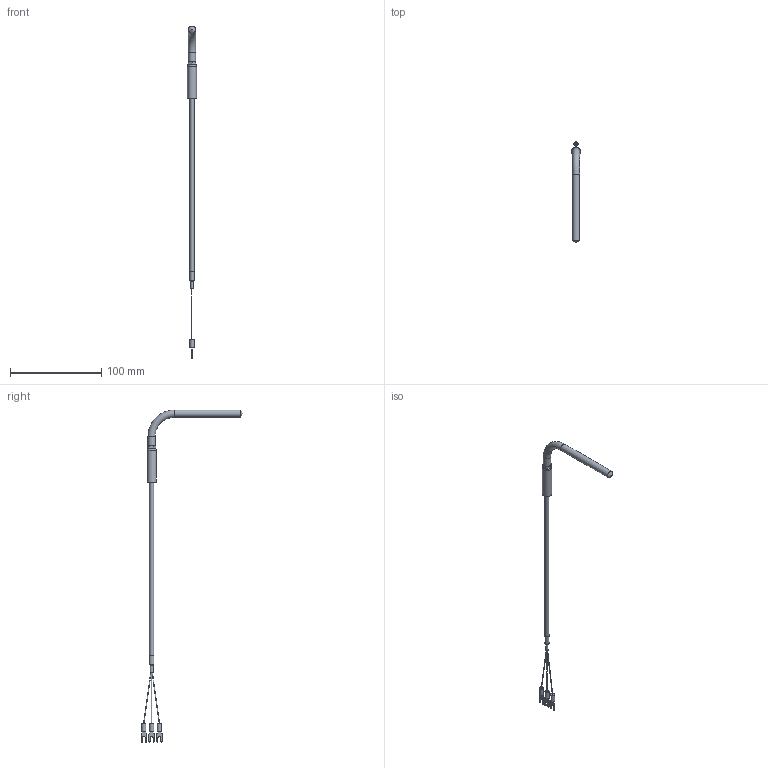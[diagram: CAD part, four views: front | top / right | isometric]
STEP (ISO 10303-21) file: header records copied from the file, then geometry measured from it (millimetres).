
FILE_DESCRIPTION (( 'STEP AP203' ), '1' );
FILE_NAME ('YIR111S-4(0).STEP', '2024-08-02T04:20:30', ( '' ), ( '' ), 'SwSTEP 2.0', 'SolidWorks 2021', '' );
FILE_SCHEMA (( 'CONFIG_CONTROL_DESIGN' ));
Length unit declared in the file: millimetre
Products named in the file (1): YIR111S-4(0)
Bounding box: 10 x 111.48 x 363.72 mm (x, y, z)
Volume: 13501.2 mm3; surface area: 8646 mm2
Topology: 1 solids, 1 shells, 90 faces, 219 edges, 143 vertices
Faces by surface type: plane 47, cylinder 31, bspline 8, torus 2, cone 2
Full cylindrical faces by diameter (mm): 0.5 x1, 3.16 x1, 4.5 x3, 4.8 x1, 5 x1, 8 x2, 10 x1
Entity records: 2797 total; most frequent: CARTESIAN_POINT 677, DIRECTION 420, ORIENTED_EDGE 398, EDGE_CURVE 199, AXIS2_PLACEMENT_3D 150, VERTEX_POINT 139, LINE 120, VECTOR 120
